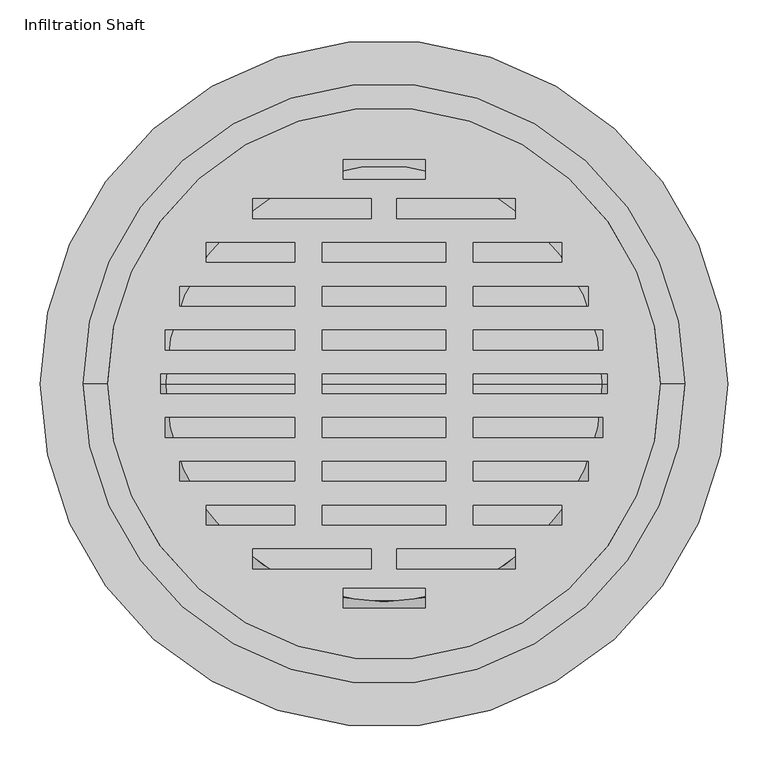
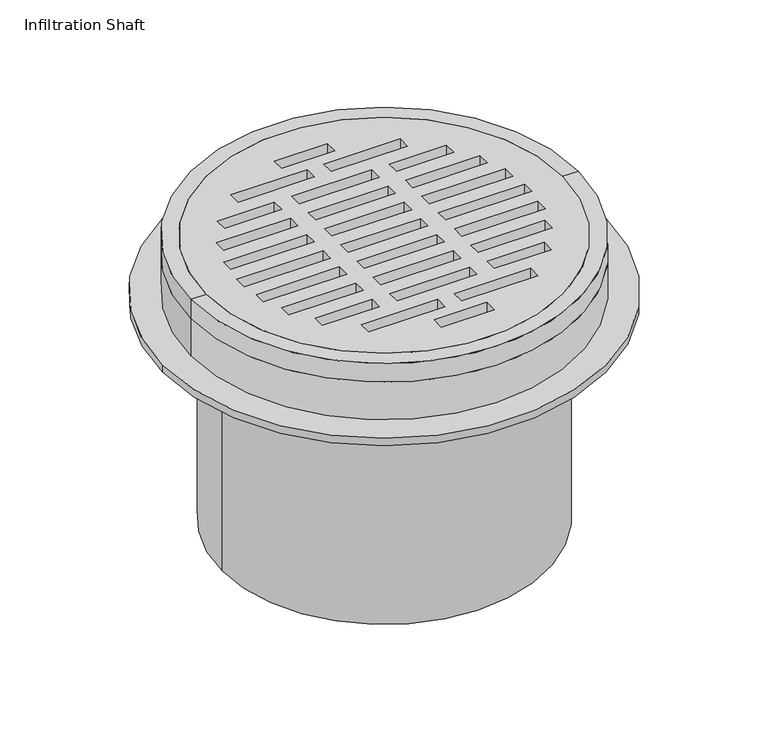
"""IFC4 building model written with IfcOpenShell, lengths in millimetres: proxy geometry, GRAF Tele Infiltration Shaft : Infiltration Shaft."""

from ifc_helpers import new_model, si_unit, point, frame, origin, origin_2d, place, context, project, spatial, polyline, circle_curve, trimmed, segment, composite_curve, outline, extrude, source, transform, mapped, element, save
from ifc_brep_helpers import plane_surface, cylinder_surface, revolved_surface, advanced_brep


def infiltration_shaft_7ea02f98(model_context):
    return source(origin(), model_context, "Body", "SolidModel", [
        extrude(outline(composite_curve([segment(trimmed(circle_curve(origin_2d(), 427.5), [point((-427.5, 0.0))], [point((427.5, 0.0))], False, "CARTESIAN"), True, "CONTINUOUS"), segment(trimmed(circle_curve(origin_2d(), 427.5), [point((427.5, 0.0))], [point((-427.5, 0.0))], False, "CARTESIAN"), True, "CONTINUOUS")], self_intersect=False), holes=[composite_curve([segment(trimmed(circle_curve(origin_2d(), 300.0), [point((-300.0, 0.0))], [point((300.0, 0.0))], True, "CARTESIAN"), True, "CONTINUOUS"), segment(trimmed(circle_curve(origin_2d(), 300.0), [point((300.0, 0.0))], [point((-300.0, 0.0))], True, "CARTESIAN"), True, "CONTINUOUS")], self_intersect=False)]), frame((0.0, 0.0, -129.9500624), z_axis=(0.0, 0.0, 1.0), x_axis=(1.0, 0.0, 0.0)), (0.0, 0.0, 1.0), 14.9500624),
        extrude(outline(composite_curve([segment(trimmed(circle_curve(origin_2d(), 313.0), [point((-313.0, 0.0))], [point((313.0, 0.0))], False, "CARTESIAN"), True, "CONTINUOUS"), segment(trimmed(circle_curve(origin_2d(), 313.0), [point((313.0, 0.0))], [point((-313.0, 0.0))], False, "CARTESIAN"), True, "CONTINUOUS")], self_intersect=False), holes=[composite_curve([segment(trimmed(circle_curve(origin_2d(), 300.0), [point((-300.0, 0.0))], [point((300.0, 0.0))], True, "CARTESIAN"), True, "CONTINUOUS"), segment(trimmed(circle_curve(origin_2d(), 300.0), [point((300.0, 0.0))], [point((-300.0, 0.0))], True, "CARTESIAN"), True, "CONTINUOUS")], self_intersect=False)]), frame((0.0, 0.0, -575.0), z_axis=(0.0, 0.0, 1.0), x_axis=(1.0, 0.0, 0.0)), (0.0, 0.0, 1.0), 445.0499376),
        extrude(outline(composite_curve([segment(trimmed(circle_curve(origin_2d(), 427.5), [point((-427.5, 0.0))], [point((427.5, 0.0))], False, "CARTESIAN"), True, "CONTINUOUS"), segment(trimmed(circle_curve(origin_2d(), 427.5), [point((427.5, 0.0))], [point((-427.5, 0.0))], False, "CARTESIAN"), True, "CONTINUOUS")], self_intersect=False), holes=[composite_curve([segment(trimmed(circle_curve(origin_2d(), 300.0), [point((-300.0, 0.0))], [point((300.0, 0.0))], True, "CARTESIAN"), True, "CONTINUOUS"), segment(trimmed(circle_curve(origin_2d(), 300.0), [point((300.0, 0.0))], [point((-300.0, 0.0))], True, "CARTESIAN"), True, "CONTINUOUS")], self_intersect=False)]), frame((0.0, 0.0, -129.9500624), z_axis=(0.0, 0.0, 1.0), x_axis=(1.0, 0.0, 0.0)), (0.0, 0.0, 1.0), 14.9500624),
        extrude(outline(composite_curve([segment(trimmed(circle_curve(origin_2d(), 343.658056), [point((-343.658056, 0.0))], [point((343.658056, 0.0))], False, "CARTESIAN"), True, "CONTINUOUS"), segment(trimmed(circle_curve(origin_2d(), 343.658056), [point((343.658056, 0.0))], [point((-343.658056, 0.0))], False, "CARTESIAN"), True, "CONTINUOUS")], self_intersect=False), holes=[polyline([(76.9999981, 12.1546783), (-76.9999981, 12.1546783), (-76.9999981, -12.25), (76.9999981, -12.25), (76.9999981, 12.1546783)]), polyline([(-111.0209366, 12.1546783), (-277.4828834, 12.1546783), (-277.4828834, -12.25), (-111.0209366, -12.25), (-111.0209366, 12.1546783)]), polyline([(76.9999981, -175.6546783), (76.9999981, -151.25), (-76.9999981, -151.25), (-76.9999981, -175.6546783), (76.9999981, -175.6546783)]), polyline([(76.9999981, -121.1546783), (76.9999981, -96.75), (-76.9999981, -96.75), (-76.9999981, -121.1546783), (76.9999981, -121.1546783)]), polyline([(76.9999981, -66.6546783), (76.9999981, -42.25), (-76.9999981, -42.25), (-76.9999981, -66.6546783), (76.9999981, -66.6546783)]), polyline([(-16.1246479, -230.154686), (-16.1246479, -205.7500076), (-163.3620611, -205.7500076), (-163.3620611, -230.154686), (-16.1246479, -230.154686)]), polyline([(-111.0209366, -175.6546783), (-111.0209366, -151.25), (-221.1065673, -151.25), (-221.1065673, -175.6546783), (-111.0209366, -175.6546783)]), polyline([(-111.0209366, -121.1546783), (-111.0209366, -96.75), (-254.0970821, -96.75), (-254.0970821, -121.1546783), (-111.0209366, -121.1546783)]), polyline([(-111.0209366, -66.6546783), (-111.0209366, -42.25), (-271.8228137, -42.25), (-271.8228137, -66.6546783), (-111.0209366, -66.6546783)]), polyline([(-50.940361, -254.75), (-50.940361, -279.1546783), (51.0, -279.1546783), (51.0, -254.75), (-50.940361, -254.75)]), polyline([(111.0209366, 12.1546783), (111.0209366, -12.25), (277.4828834, -12.25), (277.4828834, 12.1546783), (111.0209366, 12.1546783)]), polyline([(16.1246479, -230.154686), (163.3620611, -230.154686), (163.3620611, -205.7500076), (16.1246479, -205.7500076), (16.1246479, -230.154686)]), polyline([(111.0209366, -175.6546783), (221.1065673, -175.6546783), (221.1065673, -151.25), (111.0209366, -151.25), (111.0209366, -175.6546783)]), polyline([(111.0209366, -121.1546783), (254.0970821, -121.1546783), (254.0970821, -96.75), (111.0209366, -96.75), (111.0209366, -121.1546783)]), polyline([(111.0209366, -66.6546783), (271.8228137, -66.6546783), (271.8228137, -42.25), (111.0209366, -42.25), (111.0209366, -66.6546783)]), polyline([(76.9999981, 175.6546783), (-76.9999981, 175.6546783), (-76.9999981, 151.25), (76.9999981, 151.25), (76.9999981, 175.6546783)]), polyline([(76.9999981, 121.1546783), (-76.9999981, 121.1546783), (-76.9999981, 96.75), (76.9999981, 96.75), (76.9999981, 121.1546783)]), polyline([(76.9999981, 66.6546783), (-76.9999981, 66.6546783), (-76.9999981, 42.25), (76.9999981, 42.25), (76.9999981, 66.6546783)]), polyline([(-16.1246479, 230.154686), (-163.3620611, 230.154686), (-163.3620611, 205.7500076), (-16.1246479, 205.7500076), (-16.1246479, 230.154686)]), polyline([(-111.0209366, 175.6546783), (-221.1065673, 175.6546783), (-221.1065673, 151.25), (-111.0209366, 151.25), (-111.0209366, 175.6546783)]), polyline([(-111.0209366, 121.1546783), (-254.0970821, 121.1546783), (-254.0970821, 96.75), (-111.0209366, 96.75), (-111.0209366, 121.1546783)]), polyline([(-111.0209366, 66.6546783), (-271.8228137, 66.6546783), (-271.8228137, 42.25), (-111.0209366, 42.25), (-111.0209366, 66.6546783)]), polyline([(-50.940361, 254.75), (51.0, 254.75), (51.0, 279.1546783), (-50.940361, 279.1546783), (-50.940361, 254.75)]), polyline([(16.1246479, 230.154686), (16.1246479, 205.7500076), (163.3620611, 205.7500076), (163.3620611, 230.154686), (16.1246479, 230.154686)]), polyline([(111.0209366, 175.6546783), (111.0209366, 151.25), (221.1065673, 151.25), (221.1065673, 175.6546783), (111.0209366, 175.6546783)]), polyline([(111.0209366, 121.1546783), (111.0209366, 96.75), (254.0970821, 96.75), (254.0970821, 121.1546783), (111.0209366, 121.1546783)]), polyline([(111.0209366, 66.6546783), (111.0209366, 42.25), (271.8228137, 42.25), (271.8228137, 66.6546783), (111.0209366, 66.6546783)])]), frame((0.0, 0.0, -21.8781268), z_axis=(0.0, 0.0, 1.0), x_axis=(1.0, 0.0, 0.0)), (0.0, 0.0, 1.0), 21.8781268),
        advanced_brep(
        [(0.0, 0.0, -194.7407283), (-275.0411357, 0.0, -194.7407283), (275.0411357, 0.0, -194.7407283), (298.3348498, 0.0, -107.8074039), (-298.3348498, 0.0, -107.8074039), (-293.1584688, 0.0, -107.8074039), (293.1584688, 0.0, -107.8074039), (271.2045008, 0.0, -189.7407283), (-271.2045008, 0.0, -189.7407283), (0.0, 0.0, -189.7407283)],
        [
            (0, 1),
            (1, 2, circle_curve(frame((0.0, 0.0, -194.7407283), z_axis=(0.0, 0.0, -1.0), x_axis=(-1.0, 0.0, 0.0)), 275.0411357)),
            (2, 0),
            (2, 1, circle_curve(frame((0.0, 0.0, -194.7407283), z_axis=(0.0, 0.0, -1.0), x_axis=(-1.0, 0.0, 0.0)), 275.0411357)),
            (3, 4, circle_curve(frame((0.0, 0.0, -107.8074039), z_axis=(0.0, 0.0, 1.0), x_axis=(-1.0, 0.0, 0.0)), 298.3348498)),
            (4, 5),
            (5, 6, circle_curve(frame((0.0, 0.0, -107.8074039), z_axis=(0.0, 0.0, -1.0), x_axis=(-1.0, 0.0, 0.0)), 293.1584688)),
            (6, 3),
            (4, 3, circle_curve(frame((0.0, 0.0, -107.8074039), z_axis=(0.0, 0.0, 1.0), x_axis=(-1.0, 0.0, 0.0)), 298.3348498)),
            (6, 5, circle_curve(frame((0.0, 0.0, -107.8074039), z_axis=(0.0, 0.0, -1.0), x_axis=(-1.0, 0.0, 0.0)), 293.1584688)),
            (1, 4),
            (3, 2),
            (7, 8, circle_curve(frame((0.0, 0.0, -189.7407283), z_axis=(0.0, 0.0, 1.0), x_axis=(-1.0, 0.0, 0.0)), 271.2045008)),
            (8, 9),
            (9, 7),
            (8, 7, circle_curve(frame((0.0, 0.0, -189.7407283), z_axis=(0.0, 0.0, 1.0), x_axis=(-1.0, 0.0, 0.0)), 271.2045008)),
            (5, 8),
            (7, 6),
        ],
        [
            plane_surface(frame((0.0, 0.0, -194.7407283), z_axis=(0.0, 0.0, -1.0), x_axis=(-1.0, 0.0, 0.0))),
            plane_surface(frame((0.0, 0.0, -107.8074039), z_axis=(0.0, 0.0, 1.0), x_axis=(-1.0, 0.0, 0.0))),
            revolved_surface(polyline([(-298.3348498, 0.0, -107.8074039), (-275.0411357, 0.0, -194.7407283)]), (0.0, 0.0, -234.7407283), (0.0, 0.0, -1.0)),
            plane_surface(frame((0.0, 0.0, -189.7407283), z_axis=(0.0, 0.0, 1.0), x_axis=(-1.0, 0.0, 0.0))),
            revolved_surface(polyline([(-271.2045008, 0.0, -189.7407283), (-293.1584688, 0.0, -107.8074039)]), (0.0, 0.0, -234.7407283), (0.0, 0.0, -1.0)),
        ],
        [
            (0, [[1, 2, 3]]),
            (0, [[-3, 4, -1]]),
            (1, [[5, 6, 7, 8]]),
            (1, [[9, -8, 10, -6]]),
            (2, [[-2, 11, -5, 12]]),
            (2, [[-4, -12, -9, -11]]),
            (3, [[13, 14, 15]]),
            (3, [[16, -15, -14]]),
            (4, [[-7, 17, -13, 18]]),
            (4, [[-10, -18, -16, -17]]),
        ],
    ),
        advanced_brep(
        [(373.8341468, 0.0, -38.0), (-373.8341468, 0.0, -38.0), (-373.8341468, 0.0, 0.0), (373.8341468, 0.0, 0.0), (337.0852626, 0.0, -38.0), (-337.0852626, 0.0, -38.0), (343.658056, 0.0, 0.0), (-343.658056, 0.0, 0.0)],
        [
            (0, 1, circle_curve(frame((0.0, 0.0, -38.0), z_axis=(0.0, 0.0, 1.0), x_axis=(-1.0, 0.0, 0.0)), 373.8341468)),
            (1, 2),
            (2, 3, circle_curve(frame((0.0, 0.0, 0.0), z_axis=(0.0, 0.0, -1.0), x_axis=(-1.0, 0.0, 0.0)), 373.8341468)),
            (3, 0),
            (1, 0, circle_curve(frame((0.0, 0.0, -38.0), z_axis=(0.0, 0.0, 1.0), x_axis=(-1.0, 0.0, 0.0)), 373.8341468)),
            (3, 2, circle_curve(frame((0.0, 0.0, 0.0), z_axis=(0.0, 0.0, -1.0), x_axis=(-1.0, 0.0, 0.0)), 373.8341468)),
            (4, 5, circle_curve(frame((0.0, 0.0, -38.0), z_axis=(0.0, 0.0, 1.0), x_axis=(-1.0, 0.0, 0.0)), 337.0852626)),
            (5, 1),
            (0, 4),
            (5, 4, circle_curve(frame((0.0, 0.0, -38.0), z_axis=(0.0, 0.0, 1.0), x_axis=(-1.0, 0.0, 0.0)), 337.0852626)),
            (6, 7, circle_curve(frame((0.0, 0.0, 0.0), z_axis=(0.0, 0.0, 1.0), x_axis=(-1.0, 0.0, 0.0)), 343.658056)),
            (7, 5),
            (4, 6),
            (7, 6, circle_curve(frame((0.0, 0.0, 0.0), z_axis=(0.0, 0.0, 1.0), x_axis=(-1.0, 0.0, 0.0)), 343.658056)),
            (2, 7),
            (6, 3),
        ],
        [
            cylinder_surface(frame((0.0, 0.0, 417.0), z_axis=(0.0, 0.0, -1.0), x_axis=(-1.0, 0.0, 0.0)), 373.8341468),
            plane_surface(frame((0.0, 0.0, -38.0), z_axis=(0.0, 0.0, -1.0), x_axis=(-1.0, 0.0, 0.0))),
            revolved_surface(polyline([(-337.0852626, 0.0, -38.0), (-343.658056, 0.0, 0.0)]), (0.0, 0.0, 417.0), (0.0, 0.0, -1.0)),
            plane_surface(frame((0.0, 0.0, 0.0), z_axis=(0.0, 0.0, 1.0), x_axis=(-1.0, 0.0, 0.0))),
        ],
        [
            (0, [[1, 2, 3, 4]]),
            (0, [[5, -4, 6, -2]]),
            (1, [[7, 8, -1, 9]]),
            (1, [[10, -9, -5, -8]]),
            (2, [[11, 12, -7, 13]]),
            (2, [[14, -13, -10, -12]]),
            (3, [[-3, 15, -11, 16]]),
            (3, [[-6, -16, -14, -15]]),
        ],
    ),
        advanced_brep(
        [(373.8341468, 0.0, -115.0), (-373.8341468, 0.0, -115.0), (-373.8341468, 0.0, -38.0), (373.8341468, 0.0, -38.0), (304.647628, 0.0, -115.0), (-304.647628, 0.0, -115.0), (304.647628, 0.0, -87.0), (-304.647628, 0.0, -87.0), (309.647628, 0.0, -81.0), (-309.647628, 0.0, -81.0), (329.647628, 0.0, -81.0), (-329.647628, 0.0, -81.0), (337.0852626, 0.0, -38.0), (-337.0852626, 0.0, -38.0)],
        [
            (0, 1, circle_curve(frame((0.0, 0.0, -115.0), z_axis=(0.0, 0.0, 1.0), x_axis=(-1.0, 0.0, 0.0)), 373.8341468)),
            (1, 2),
            (2, 3, circle_curve(frame((0.0, 0.0, -38.0), z_axis=(0.0, 0.0, -1.0), x_axis=(-1.0, 0.0, 0.0)), 373.8341468)),
            (3, 0),
            (1, 0, circle_curve(frame((0.0, 0.0, -115.0), z_axis=(0.0, 0.0, 1.0), x_axis=(-1.0, 0.0, 0.0)), 373.8341468)),
            (3, 2, circle_curve(frame((0.0, 0.0, -38.0), z_axis=(0.0, 0.0, -1.0), x_axis=(-1.0, 0.0, 0.0)), 373.8341468)),
            (4, 5, circle_curve(frame((0.0, 0.0, -115.0), z_axis=(0.0, 0.0, 1.0), x_axis=(-1.0, 0.0, 0.0)), 304.647628)),
            (5, 1),
            (0, 4),
            (5, 4, circle_curve(frame((0.0, 0.0, -115.0), z_axis=(0.0, 0.0, 1.0), x_axis=(-1.0, 0.0, 0.0)), 304.647628)),
            (6, 7, circle_curve(frame((0.0, 0.0, -87.0), z_axis=(0.0, 0.0, 1.0), x_axis=(-1.0, 0.0, 0.0)), 304.647628)),
            (7, 5),
            (4, 6),
            (7, 6, circle_curve(frame((0.0, 0.0, -87.0), z_axis=(0.0, 0.0, 1.0), x_axis=(-1.0, 0.0, 0.0)), 304.647628)),
            (8, 9, circle_curve(frame((0.0, 0.0, -81.0), z_axis=(0.0, 0.0, 1.0), x_axis=(-1.0, 0.0, 0.0)), 309.647628)),
            (9, 7),
            (6, 8),
            (9, 8, circle_curve(frame((0.0, 0.0, -81.0), z_axis=(0.0, 0.0, 1.0), x_axis=(-1.0, 0.0, 0.0)), 309.647628)),
            (10, 11, circle_curve(frame((0.0, 0.0, -81.0), z_axis=(0.0, 0.0, 1.0), x_axis=(-1.0, 0.0, 0.0)), 329.647628)),
            (11, 9),
            (8, 10),
            (11, 10, circle_curve(frame((0.0, 0.0, -81.0), z_axis=(0.0, 0.0, 1.0), x_axis=(-1.0, 0.0, 0.0)), 329.647628)),
            (12, 13, circle_curve(frame((0.0, 0.0, -38.0), z_axis=(0.0, 0.0, 1.0), x_axis=(-1.0, 0.0, 0.0)), 337.0852626)),
            (13, 11),
            (10, 12),
            (13, 12, circle_curve(frame((0.0, 0.0, -38.0), z_axis=(0.0, 0.0, 1.0), x_axis=(-1.0, 0.0, 0.0)), 337.0852626)),
            (2, 13),
            (12, 3),
        ],
        [
            cylinder_surface(frame((0.0, 0.0, 340.0), z_axis=(0.0, 0.0, -1.0), x_axis=(-1.0, 0.0, 0.0)), 373.8341468),
            plane_surface(frame((0.0, 0.0, -115.0), z_axis=(0.0, 0.0, -1.0), x_axis=(-1.0, 0.0, 0.0))),
            revolved_surface(polyline([(-304.647628, 0.0, -115.0), (-304.647628, 0.0, -87.0)]), (0.0, 0.0, 340.0), (0.0, 0.0, -1.0)),
            revolved_surface(polyline([(-304.647628, 0.0, -87.0), (-309.647628, 0.0, -81.0)]), (0.0, 0.0, 340.0), (0.0, 0.0, -1.0)),
            plane_surface(frame((0.0, 0.0, -81.0), z_axis=(0.0, 0.0, 1.0), x_axis=(-1.0, 0.0, 0.0))),
            revolved_surface(polyline([(-329.647628, 0.0, -81.0), (-337.0852626, 0.0, -38.0)]), (0.0, 0.0, 340.0), (0.0, 0.0, -1.0)),
            plane_surface(frame((0.0, 0.0, -38.0), z_axis=(0.0, 0.0, 1.0), x_axis=(-1.0, 0.0, 0.0))),
        ],
        [
            (0, [[1, 2, 3, 4]]),
            (0, [[5, -4, 6, -2]]),
            (1, [[7, 8, -1, 9]]),
            (1, [[10, -9, -5, -8]]),
            (2, [[11, 12, -7, 13]]),
            (2, [[14, -13, -10, -12]]),
            (3, [[15, 16, -11, 17]]),
            (3, [[18, -17, -14, -16]]),
            (4, [[19, 20, -15, 21]]),
            (4, [[22, -21, -18, -20]]),
            (5, [[23, 24, -19, 25]]),
            (5, [[26, -25, -22, -24]]),
            (6, [[-3, 27, -23, 28]]),
            (6, [[-6, -28, -26, -27]]),
        ],
    ),
        extrude(outline(polyline([(0.0, 0.0), (103.6001835, 0.0), (97.7366644, -23.939106), (0.0, 0.0)])), frame((-395.4623133, -121.3292977, -129.9500624), z_axis=(-0.2817325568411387, 0.959492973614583, 0.0), x_axis=(0.9319450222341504, 0.2736437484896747, -0.2379024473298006)), (0.0, 0.0, 1.0), 10.0),
        extrude(outline(polyline([(100.6257242, 0.0), (0.0, -24.6467372), (0.0, 0.0), (100.6257242, 0.0)])), frame((-201.1926619, -239.8239204, -129.9500624), z_axis=(-0.7557495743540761, 0.6548607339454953, 0.0), x_axis=(-0.6548607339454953, -0.7557495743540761, 0.0)), (0.0, 0.0, 1.0), 10.0),
        extrude(outline(polyline([(42.0990731, 0.0), (42.0990731, -100.6257242), (17.0491355, 0.0), (42.0990731, 0.0)])), frame((-260.6091517, -173.4268435, -172.0491355), z_axis=(-0.5406408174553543, 0.8412535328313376, 0.0), x_axis=(0.0, 0.0, 1.0)), (0.0, 0.0, 1.0), 10.0),
        extrude(outline(polyline([(42.0990731, 0.0), (42.0990731, -100.6257242), (17.0491355, 0.0), (42.0990731, 0.0)])), frame((-125.4767391, -286.7918896, -172.0491355), z_axis=(-0.9096319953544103, 0.41541501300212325, 0.0), x_axis=(0.0, 0.0, 1.0)), (0.0, 0.0, 1.0), 10.0),
        extrude(outline(polyline([(0.0, 0.0), (103.6001836, 0.0), (97.7366645, -23.9391061), (0.0, 0.0)])), frame((-53.9159708, -410.127185, -129.9500624), z_axis=(-0.989821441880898, 0.14231483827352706, 0.0), x_axis=(0.1382288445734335, 0.9614027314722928, -0.2379024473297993)), (0.0, 0.0, 1.0), 10.0),
        extrude(outline(polyline([(-129.9500624, 413.6257242), (-129.9500624, 313.0), (-154.5967996, 313.0), (-129.9500624, 413.6257242)])), frame((0.0, -5.0, 0.0), z_axis=(0.0, 1.0, 0.0), x_axis=(0.0, 0.0, 1.0)), (0.0, 0.0, 1.0), 10.0),
        extrude(outline(polyline([(-42.0990731, 0.0), (-17.0491355, 0.0), (-42.0990731, -100.6257243), (-42.0990731, 0.0)])), frame((301.7299635, 83.3848254, -172.0491355), z_axis=(-0.2817325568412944, 0.9594929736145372, 0.0), x_axis=(0.0, 0.0, -1.0)), (0.0, 0.0, 1.0), 10.0),
        extrude(outline(polyline([(0.0, 0.0), (-97.7366644, -23.9391061), (-103.6001835, 0.0), (0.0, 0.0)])), frame((350.6673059, 219.416682, -129.9500624), z_axis=(-0.5406408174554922, 0.8412535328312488, 0.0), x_axis=(0.8171003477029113, 0.5251185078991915, 0.23790244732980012)), (0.0, 0.0, 1.0), 10.0),
        extrude(outline(polyline([(0.0, 0.0), (-97.7366644, -23.9391061), (-103.6001835, 0.0), (0.0, 0.0)])), frame((345.2608977, -227.8292173, -129.9500624), z_axis=(0.5406408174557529, 0.8412535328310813, 0.0), x_axis=(0.8171003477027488, -0.5251185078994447, 0.2379024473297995)), (0.0, 0.0, 1.0), 10.0),
        extrude(outline(polyline([(0.0, 0.0), (0.0, -25.0499376), (-100.6257241, 0.0), (0.0, 0.0)])), frame((298.912638, -92.9797552, -129.9500624), z_axis=(0.28173255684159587, 0.9594929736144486, 0.0), x_axis=(-0.9594929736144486, 0.28173255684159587, 0.0)), (0.0, 0.0, 1.0), 10.0),
        extrude(outline(polyline([(0.0, 0.0), (0.0, -25.0499376), (-100.6257242, 0.0), (0.0, 0.0)])), frame((201.1926619, -239.8239204, -129.9500624), z_axis=(0.7557495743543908, 0.6548607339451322, 0.0), x_axis=(-0.6548607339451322, 0.7557495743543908, 0.0)), (0.0, 0.0, 1.0), 10.0),
        extrude(outline(polyline([(-100.6257242, 0.0), (0.0, 0.0), (0.0, -24.6467372), (-100.6257242, 0.0)])), frame((125.4767391, -286.7918896, -129.9500624), z_axis=(0.909631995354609, 0.41541501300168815, 0.0), x_axis=(-0.41541501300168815, 0.909631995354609, 0.0)), (0.0, 0.0, 1.0), 10.0),
        extrude(outline(polyline([(-42.0990731, 0.0), (-17.0491355, 0.0), (-42.0990731, -100.6257243), (-42.0990731, 0.0)])), frame((39.5954372, -310.5256855, -172.0491355), z_axis=(0.9898214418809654, 0.14231483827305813, 0.0), x_axis=(0.0, 0.0, -1.0)), (0.0, 0.0, 1.0), 10.0),
        extrude(outline(polyline([(0.0, 0.0), (103.6001836, 0.0), (97.7366645, -23.9391061), (0.0, 0.0)])), frame((-63.8141853, 408.7040366, -129.9500624), z_axis=(0.9898214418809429, 0.14231483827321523, 0.0), x_axis=(0.13822884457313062, -0.9614027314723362, -0.2379024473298)), (0.0, 0.0, 1.0), 10.0),
        extrude(outline(polyline([(0.0, 0.0), (0.0, -25.0499376), (-100.6257243, 0.0), (0.0, 0.0)])), frame((49.4936516, 309.1025371, -129.9500624), z_axis=(-0.9898214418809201, 0.14231483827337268, 0.0), x_axis=(-0.14231483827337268, -0.9898214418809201, 0.0)), (0.0, 0.0, 1.0), 10.0),
        extrude(outline(polyline([(-100.6257242, 0.0), (0.0, 0.0), (0.0, -24.6467372), (-100.6257242, 0.0)])), frame((134.573059, 282.6377395, -129.9500624), z_axis=(-0.909631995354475, 0.41541501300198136, 0.0), x_axis=(-0.41541501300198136, -0.909631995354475, 0.0)), (0.0, 0.0, 1.0), 10.0),
        extrude(outline(polyline([(-42.0990731, 0.0), (-17.0491355, 0.0), (-42.0990731, -100.6257242), (-42.0990731, 0.0)])), frame((208.7501576, 233.2753131, -172.0491355), z_axis=(-0.7557495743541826, 0.6548607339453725, 0.0), x_axis=(0.0, 0.0, -1.0)), (0.0, 0.0, 1.0), 10.0),
        extrude(outline(polyline([(100.6257242, 0.0), (0.0, -24.6467372), (0.0, 0.0), (100.6257242, 0.0)])), frame((-208.7501576, 233.2753131, -129.9500624), z_axis=(0.7557495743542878, 0.6548607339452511, 0.0), x_axis=(-0.6548607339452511, 0.7557495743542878, 0.0)), (0.0, 0.0, 1.0), 10.0),
        extrude(outline(polyline([(42.0990731, 0.0), (42.0990731, -100.6257242), (17.0491355, 0.0), (42.0990731, 0.0)])), frame((-134.573059, 282.6377395, -172.0491355), z_axis=(0.9096319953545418, 0.41541501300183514, 0.0), x_axis=(0.0, 0.0, 1.0)), (0.0, 0.0, 1.0), 10.0),
        extrude(outline(polyline([(42.0990731, 0.0), (42.0990731, -100.6257242), (17.0491355, 0.0), (42.0990731, 0.0)])), frame((-266.0155599, 165.0143082, -172.0491355), z_axis=(0.5406408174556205, 0.8412535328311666, 0.0), x_axis=(0.0, 0.0, 1.0)), (0.0, 0.0, 1.0), 10.0),
        extrude(outline(composite_curve([segment(trimmed(circle_curve(origin_2d(), 313.0), [point((-260.5755532, -173.4052511))], [point((-208.7240033, -233.2451295))], True, "CARTESIAN"), True, "CONTINUOUS"), segment(polyline([(-208.7240033, -233.2451295), (-225.0974564, -252.1411016)]), True, "CONTINUOUS"), segment(trimmed(circle_curve(origin_2d(), 338.0), [point((-225.0974564, -252.1411016))], [point((-281.6093769, -186.9228688))], False, "CARTESIAN"), True, "CONTINUOUS"), segment(polyline([(-281.6093769, -186.9228688), (-260.5755532, -173.4052511)]), True, "CONTINUOUS")], self_intersect=False)), frame((0.0, 0.0, -134.9500624), z_axis=(0.0, 0.0, 1.0), x_axis=(1.0, 0.0, 0.0)), (0.0, 0.0, 1.0), 5.0),
        extrude(outline(composite_curve([segment(polyline([(-265.9819613, -164.9927157), (-287.015785, -178.5103334)]), True, "CONTINUOUS"), segment(trimmed(circle_curve(origin_2d(), 338.0), [point((-287.015785, -178.5103334))], [point((-322.8644761, -100.0126494))], False, "CARTESIAN"), True, "CONTINUOUS"), segment(polyline([(-322.8644761, -100.0126494), (-298.8743171, -92.9685031)]), True, "CONTINUOUS"), segment(trimmed(circle_curve(origin_2d(), 313.0), [point((-298.8743171, -92.9685031))], [point((-265.9819613, -164.9927157))], True, "CARTESIAN"), True, "CONTINUOUS")], self_intersect=False)), frame((0.0, 0.0, -134.9500624), z_axis=(0.0, 0.0, 1.0), x_axis=(1.0, 0.0, 0.0)), (0.0, 0.0, 1.0), 5.0),
        extrude(outline(composite_curve([segment(polyline([(-312.9600613, 5.0), (-337.9630157, 5.0)]), True, "CONTINUOUS"), segment(trimmed(circle_curve(origin_2d(), 338.0), [point((-337.9630157, 5.0))], [point((-325.6818017, 90.4177197))], False, "CARTESIAN"), True, "CONTINUOUS"), segment(polyline([(-325.6818017, 90.4177197), (-301.6916427, 83.3735734)]), True, "CONTINUOUS"), segment(trimmed(circle_curve(origin_2d(), 313.0), [point((-301.6916427, 83.3735734))], [point((-312.9600613, 5.0))], True, "CARTESIAN"), True, "CONTINUOUS")], self_intersect=False)), frame((0.0, 0.0, -134.9500624), z_axis=(0.0, 0.0, 1.0), x_axis=(1.0, 0.0, 0.0)), (0.0, 0.0, 1.0), 5.0),
        extrude(outline(composite_curve([segment(trimmed(circle_curve(origin_2d(), 313.0), [point((-312.9600613, -5.0))], [point((-301.6916427, -83.3735734))], True, "CARTESIAN"), True, "CONTINUOUS"), segment(polyline([(-301.6916427, -83.3735734), (-325.6818017, -90.4177197)]), True, "CONTINUOUS"), segment(trimmed(circle_curve(origin_2d(), 338.0), [point((-325.6818017, -90.4177197))], [point((-337.9630157, -5.0))], False, "CARTESIAN"), True, "CONTINUOUS"), segment(polyline([(-337.9630157, -5.0), (-312.9600613, -5.0)]), True, "CONTINUOUS")], self_intersect=False)), frame((0.0, 0.0, -134.9500624), z_axis=(0.0, 0.0, 1.0), x_axis=(1.0, 0.0, 0.0)), (0.0, 0.0, 1.0), 5.0),
        extrude(outline(composite_curve([segment(trimmed(circle_curve(origin_2d(), 313.0), [point((-265.9819613, 164.9927157))], [point((-298.8743171, 92.9685031))], True, "CARTESIAN"), True, "CONTINUOUS"), segment(polyline([(-298.8743171, 92.9685031), (-322.8644761, 100.0126494)]), True, "CONTINUOUS"), segment(trimmed(circle_curve(origin_2d(), 338.0), [point((-322.8644761, 100.0126494))], [point((-287.015785, 178.5103334))], False, "CARTESIAN"), True, "CONTINUOUS"), segment(polyline([(-287.015785, 178.5103334), (-265.9819613, 164.9927157)]), True, "CONTINUOUS")], self_intersect=False)), frame((0.0, 0.0, -134.9500624), z_axis=(0.0, 0.0, 1.0), x_axis=(1.0, 0.0, 0.0)), (0.0, 0.0, 1.0), 5.0),
        extrude(outline(composite_curve([segment(polyline([(-260.5755532, 173.4052511), (-281.6093769, 186.9228688)]), True, "CONTINUOUS"), segment(trimmed(circle_curve(origin_2d(), 338.0), [point((-281.6093769, 186.9228688))], [point((-225.0974564, 252.1411016))], False, "CARTESIAN"), True, "CONTINUOUS"), segment(polyline([(-225.0974564, 252.1411016), (-208.7240033, 233.2451295)]), True, "CONTINUOUS"), segment(trimmed(circle_curve(origin_2d(), 313.0), [point((-208.7240033, 233.2451295))], [point((-260.5755532, 173.4052511))], True, "CARTESIAN"), True, "CONTINUOUS")], self_intersect=False)), frame((0.0, 0.0, -134.9500624), z_axis=(0.0, 0.0, 1.0), x_axis=(1.0, 0.0, 0.0)), (0.0, 0.0, 1.0), 5.0),
        extrude(outline(composite_curve([segment(polyline([(208.7240033, 233.2451295), (225.0974564, 252.1411016)]), True, "CONTINUOUS"), segment(trimmed(circle_curve(origin_2d(), 338.0), [point((225.0974564, 252.1411016))], [point((281.6093769, 186.9228688))], False, "CARTESIAN"), True, "CONTINUOUS"), segment(polyline([(281.6093769, 186.9228688), (260.5755532, 173.4052511)]), True, "CONTINUOUS"), segment(trimmed(circle_curve(origin_2d(), 313.0), [point((260.5755532, 173.4052511))], [point((208.7240033, 233.2451295))], True, "CARTESIAN"), True, "CONTINUOUS")], self_intersect=False)), frame((0.0, 0.0, -134.9500624), z_axis=(0.0, 0.0, 1.0), x_axis=(1.0, 0.0, 0.0)), (0.0, 0.0, 1.0), 5.0),
        extrude(outline(composite_curve([segment(trimmed(circle_curve(origin_2d(), 313.0), [point((201.1665076, 239.7937368))], [point((134.5564679, 282.60141))], True, "CARTESIAN"), True, "CONTINUOUS"), segment(polyline([(134.5564679, 282.60141), (144.9430705, 305.3448973)]), True, "CONTINUOUS"), segment(trimmed(circle_curve(origin_2d(), 338.0), [point((144.9430705, 305.3448973))], [point((217.5399607, 258.689709))], False, "CARTESIAN"), True, "CONTINUOUS"), segment(polyline([(217.5399607, 258.689709), (201.1665076, 239.7937368)]), True, "CONTINUOUS")], self_intersect=False)), frame((0.0, 0.0, -134.9500624), z_axis=(0.0, 0.0, 1.0), x_axis=(1.0, 0.0, 0.0)), (0.0, 0.0, 1.0), 5.0),
        extrude(outline(composite_curve([segment(trimmed(circle_curve(origin_2d(), 313.0), [point((39.5897533, 310.4861534))], [point((-39.5897533, 310.4861534))], True, "CARTESIAN"), True, "CONTINUOUS"), segment(polyline([(-39.5897533, 310.4861534), (-43.1480447, 335.2346137)]), True, "CONTINUOUS"), segment(trimmed(circle_curve(origin_2d(), 338.0), [point((-43.1480447, 335.2346137))], [point((43.1480447, 335.2346137))], False, "CARTESIAN"), True, "CONTINUOUS"), segment(polyline([(43.1480447, 335.2346137), (39.5897533, 310.4861534)]), True, "CONTINUOUS")], self_intersect=False)), frame((0.0, 0.0, -134.9500624), z_axis=(0.0, 0.0, 1.0), x_axis=(1.0, 0.0, 0.0)), (0.0, 0.0, 1.0), 5.0),
        extrude(outline(composite_curve([segment(polyline([(49.4879677, 309.063005), (53.0462591, 333.8114653)]), True, "CONTINUOUS"), segment(trimmed(circle_curve(origin_2d(), 338.0), [point((53.0462591, 333.8114653))], [point((135.8467506, 309.4990474))], False, "CARTESIAN"), True, "CONTINUOUS"), segment(polyline([(135.8467506, 309.4990474), (125.460148, 286.7555601)]), True, "CONTINUOUS"), segment(trimmed(circle_curve(origin_2d(), 313.0), [point((125.460148, 286.7555601))], [point((49.4879677, 309.063005))], True, "CARTESIAN"), True, "CONTINUOUS")], self_intersect=False)), frame((0.0, 0.0, -134.9500624), z_axis=(0.0, 0.0, 1.0), x_axis=(1.0, 0.0, 0.0)), (0.0, 0.0, 1.0), 5.0),
        extrude(outline(composite_curve([segment(polyline([(-125.460148, 286.7555601), (-135.8467506, 309.4990474)]), True, "CONTINUOUS"), segment(trimmed(circle_curve(origin_2d(), 338.0), [point((-135.8467506, 309.4990474))], [point((-53.0462591, 333.8114653))], False, "CARTESIAN"), True, "CONTINUOUS"), segment(polyline([(-53.0462591, 333.8114653), (-49.4879677, 309.063005)]), True, "CONTINUOUS"), segment(trimmed(circle_curve(origin_2d(), 313.0), [point((-49.4879677, 309.063005))], [point((-125.460148, 286.7555601))], True, "CARTESIAN"), True, "CONTINUOUS")], self_intersect=False)), frame((0.0, 0.0, -134.9500624), z_axis=(0.0, 0.0, 1.0), x_axis=(1.0, 0.0, 0.0)), (0.0, 0.0, 1.0), 5.0),
        extrude(outline(composite_curve([segment(trimmed(circle_curve(origin_2d(), 313.0), [point((-134.5564679, 282.60141))], [point((-201.1665076, 239.7937368))], True, "CARTESIAN"), True, "CONTINUOUS"), segment(polyline([(-201.1665076, 239.7937368), (-217.5399607, 258.689709)]), True, "CONTINUOUS"), segment(trimmed(circle_curve(origin_2d(), 338.0), [point((-217.5399607, 258.689709))], [point((-144.9430705, 305.3448973))], False, "CARTESIAN"), True, "CONTINUOUS"), segment(polyline([(-144.9430705, 305.3448973), (-134.5564679, 282.60141)]), True, "CONTINUOUS")], self_intersect=False)), frame((0.0, 0.0, -134.9500624), z_axis=(0.0, 0.0, 1.0), x_axis=(1.0, 0.0, 0.0)), (0.0, 0.0, 1.0), 5.0),
        extrude(outline(composite_curve([segment(trimmed(circle_curve(origin_2d(), 313.0), [point((298.8743171, 92.9685031))], [point((265.9819613, 164.9927157))], True, "CARTESIAN"), True, "CONTINUOUS"), segment(polyline([(265.9819613, 164.9927157), (287.015785, 178.5103334)]), True, "CONTINUOUS"), segment(trimmed(circle_curve(origin_2d(), 338.0), [point((287.015785, 178.5103334))], [point((322.8644761, 100.0126494))], False, "CARTESIAN"), True, "CONTINUOUS"), segment(polyline([(322.8644761, 100.0126494), (298.8743171, 92.9685031)]), True, "CONTINUOUS")], self_intersect=False)), frame((0.0, 0.0, -134.9500624), z_axis=(0.0, 0.0, 1.0), x_axis=(1.0, 0.0, 0.0)), (0.0, 0.0, 1.0), 5.0),
        extrude(outline(composite_curve([segment(polyline([(301.6916427, 83.3735734), (325.6818017, 90.4177197)]), True, "CONTINUOUS"), segment(trimmed(circle_curve(origin_2d(), 338.0), [point((325.6818017, 90.4177197))], [point((337.9630157, 5.0))], False, "CARTESIAN"), True, "CONTINUOUS"), segment(polyline([(337.9630157, 5.0), (312.9600613, 5.0)]), True, "CONTINUOUS"), segment(trimmed(circle_curve(origin_2d(), 313.0), [point((312.9600613, 5.0))], [point((301.6916427, 83.3735734))], True, "CARTESIAN"), True, "CONTINUOUS")], self_intersect=False)), frame((0.0, 0.0, -134.9500624), z_axis=(0.0, 0.0, 1.0), x_axis=(1.0, 0.0, 0.0)), (0.0, 0.0, 1.0), 5.0),
        extrude(outline(composite_curve([segment(polyline([(298.8743171, -92.9685031), (322.8644761, -100.0126494)]), True, "CONTINUOUS"), segment(trimmed(circle_curve(origin_2d(), 338.0), [point((322.8644761, -100.0126494))], [point((287.015785, -178.5103334))], False, "CARTESIAN"), True, "CONTINUOUS"), segment(polyline([(287.015785, -178.5103334), (265.9819613, -164.9927157)]), True, "CONTINUOUS"), segment(trimmed(circle_curve(origin_2d(), 313.0), [point((265.9819613, -164.9927157))], [point((298.8743171, -92.9685031))], True, "CARTESIAN"), True, "CONTINUOUS")], self_intersect=False)), frame((0.0, 0.0, -134.9500624), z_axis=(0.0, 0.0, 1.0), x_axis=(1.0, 0.0, 0.0)), (0.0, 0.0, 1.0), 5.0),
        extrude(outline(composite_curve([segment(trimmed(circle_curve(origin_2d(), 313.0), [point((301.6916427, -83.3735734))], [point((312.9600613, -5.0))], True, "CARTESIAN"), True, "CONTINUOUS"), segment(polyline([(312.9600613, -5.0), (337.9630157, -5.0)]), True, "CONTINUOUS"), segment(trimmed(circle_curve(origin_2d(), 338.0), [point((337.9630157, -5.0))], [point((325.6818017, -90.4177197))], False, "CARTESIAN"), True, "CONTINUOUS"), segment(polyline([(325.6818017, -90.4177197), (301.6916427, -83.3735734)]), True, "CONTINUOUS")], self_intersect=False)), frame((0.0, 0.0, -134.9500624), z_axis=(0.0, 0.0, 1.0), x_axis=(1.0, 0.0, 0.0)), (0.0, 0.0, 1.0), 5.0),
        extrude(outline(composite_curve([segment(trimmed(circle_curve(origin_2d(), 313.0), [point((208.7240033, -233.2451295))], [point((260.5755532, -173.4052511))], True, "CARTESIAN"), True, "CONTINUOUS"), segment(polyline([(260.5755532, -173.4052511), (281.6093769, -186.9228688)]), True, "CONTINUOUS"), segment(trimmed(circle_curve(origin_2d(), 338.0), [point((281.6093769, -186.9228688))], [point((225.0974564, -252.1411016))], False, "CARTESIAN"), True, "CONTINUOUS"), segment(polyline([(225.0974564, -252.1411016), (208.7240033, -233.2451295)]), True, "CONTINUOUS")], self_intersect=False)), frame((0.0, 0.0, -134.9500624), z_axis=(0.0, 0.0, 1.0), x_axis=(1.0, 0.0, 0.0)), (0.0, 0.0, 1.0), 5.0),
        extrude(outline(composite_curve([segment(polyline([(201.1665076, -239.7937368), (217.5399607, -258.689709)]), True, "CONTINUOUS"), segment(trimmed(circle_curve(origin_2d(), 338.0), [point((217.5399607, -258.689709))], [point((144.9430705, -305.3448973))], False, "CARTESIAN"), True, "CONTINUOUS"), segment(polyline([(144.9430705, -305.3448973), (134.5564679, -282.60141)]), True, "CONTINUOUS"), segment(trimmed(circle_curve(origin_2d(), 313.0), [point((134.5564679, -282.60141))], [point((201.1665076, -239.7937368))], True, "CARTESIAN"), True, "CONTINUOUS")], self_intersect=False)), frame((0.0, 0.0, -134.9500624), z_axis=(0.0, 0.0, 1.0), x_axis=(1.0, 0.0, 0.0)), (0.0, 0.0, 1.0), 5.0),
        extrude(outline(composite_curve([segment(trimmed(circle_curve(origin_2d(), 313.0), [point((-125.460148, -286.7555601))], [point((-49.4879677, -309.063005))], True, "CARTESIAN"), True, "CONTINUOUS"), segment(polyline([(-49.4879677, -309.063005), (-53.0462591, -333.8114653)]), True, "CONTINUOUS"), segment(trimmed(circle_curve(origin_2d(), 338.0), [point((-53.0462591, -333.8114653))], [point((-135.8467506, -309.4990474))], False, "CARTESIAN"), True, "CONTINUOUS"), segment(polyline([(-135.8467506, -309.4990474), (-125.460148, -286.7555601)]), True, "CONTINUOUS")], self_intersect=False)), frame((0.0, 0.0, -134.9500624), z_axis=(0.0, 0.0, 1.0), x_axis=(1.0, 0.0, 0.0)), (0.0, 0.0, 1.0), 5.0),
        extrude(outline(composite_curve([segment(polyline([(-134.5564679, -282.60141), (-144.9430705, -305.3448973)]), True, "CONTINUOUS"), segment(trimmed(circle_curve(origin_2d(), 338.0), [point((-144.9430705, -305.3448973))], [point((-217.5399607, -258.689709))], False, "CARTESIAN"), True, "CONTINUOUS"), segment(polyline([(-217.5399607, -258.689709), (-201.1665076, -239.7937368)]), True, "CONTINUOUS"), segment(trimmed(circle_curve(origin_2d(), 313.0), [point((-201.1665076, -239.7937368))], [point((-134.5564679, -282.60141))], True, "CARTESIAN"), True, "CONTINUOUS")], self_intersect=False)), frame((0.0, 0.0, -134.9500624), z_axis=(0.0, 0.0, 1.0), x_axis=(1.0, 0.0, 0.0)), (0.0, 0.0, 1.0), 5.0),
        extrude(outline(composite_curve([segment(polyline([(39.5897533, -310.4861534), (43.1480447, -335.2346137)]), True, "CONTINUOUS"), segment(trimmed(circle_curve(origin_2d(), 338.0), [point((43.1480447, -335.2346137))], [point((-43.1480447, -335.2346137))], False, "CARTESIAN"), True, "CONTINUOUS"), segment(polyline([(-43.1480447, -335.2346137), (-39.5897533, -310.4861534)]), True, "CONTINUOUS"), segment(trimmed(circle_curve(origin_2d(), 313.0), [point((-39.5897533, -310.4861534))], [point((39.5897533, -310.4861534))], True, "CARTESIAN"), True, "CONTINUOUS")], self_intersect=False)), frame((0.0, 0.0, -134.9500624), z_axis=(0.0, 0.0, 1.0), x_axis=(1.0, 0.0, 0.0)), (0.0, 0.0, 1.0), 5.0),
        extrude(outline(composite_curve([segment(trimmed(circle_curve(origin_2d(), 313.0), [point((49.4879677, -309.063005))], [point((125.460148, -286.7555601))], True, "CARTESIAN"), True, "CONTINUOUS"), segment(polyline([(125.460148, -286.7555601), (135.8467506, -309.4990474)]), True, "CONTINUOUS"), segment(trimmed(circle_curve(origin_2d(), 338.0), [point((135.8467506, -309.4990474))], [point((53.0462591, -333.8114653))], False, "CARTESIAN"), True, "CONTINUOUS"), segment(polyline([(53.0462591, -333.8114653), (49.4879677, -309.063005)]), True, "CONTINUOUS")], self_intersect=False)), frame((0.0, 0.0, -134.9500624), z_axis=(0.0, 0.0, 1.0), x_axis=(1.0, 0.0, 0.0)), (0.0, 0.0, 1.0), 5.0),
        extrude(outline(polyline([(0.0, 0.0), (103.6001836, 0.0), (97.7366645, -23.9391061), (0.0, 0.0)])), frame((-398.2796389, 111.734368, -129.9500624), z_axis=(0.2817325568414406, 0.9594929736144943, 0.0), x_axis=(0.9319450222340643, -0.273643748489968, -0.23790244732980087)), (0.0, 0.0, 1.0), 10.0),
        extrude(outline(polyline([(-129.9500624, -313.0), (-129.9500624, -413.6257242), (-155.0, -313.0), (-129.9500624, -313.0)])), frame((0.0, -5.0, 0.0), z_axis=(0.0, 1.0, 0.0), x_axis=(0.0, 0.0, 1.0)), (0.0, 0.0, 1.0), 10.0),
    ])


if __name__ == "__main__":
    model = new_model("IFC4")
    model_context = context("Model", 3, world=origin())
    ifc_project = project(units=[si_unit("LENGTHUNIT", "METRE", prefix="MILLI")], contexts=[model_context])
    site = spatial("IfcSite", under=ifc_project)
    building = spatial("IfcBuilding", under=site)
    placement = place(None, origin())
    infiltration_shaft_shape = infiltration_shaft_7ea02f98(model_context)
    element("IfcBuildingElementProxy", 1, Name="GRAF Tele Infiltration Shaft : Infiltration Shaft", ObjectType="GRAF Tele Infiltration Shaft : Infiltration Shaft", at=placement, inside=building, context=model_context, shape_type="MappedRepresentation", body=[
        mapped(infiltration_shaft_shape, transform((0.0, 0.0, 0.0), x_axis=(1.0, 0.0, 0.0), y_axis=(0.0, 1.0, 0.0), z_axis=(0.0, 0.0, 1.0))),
    ])
    save(model, "model.ifc")
